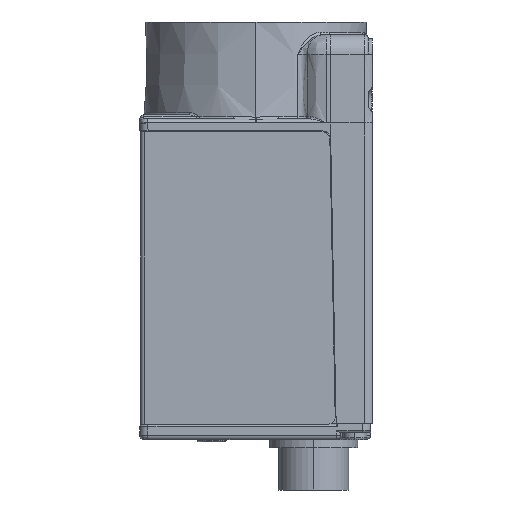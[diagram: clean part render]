
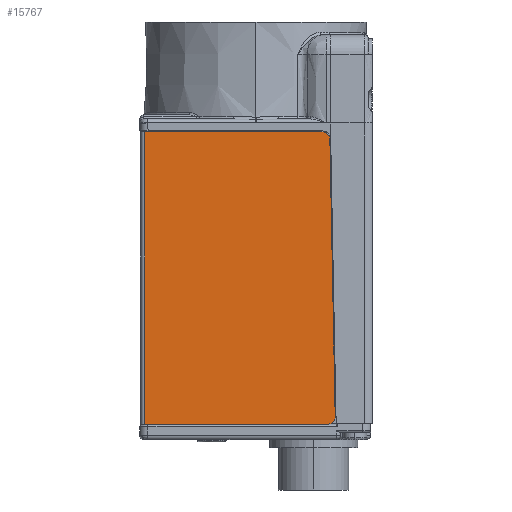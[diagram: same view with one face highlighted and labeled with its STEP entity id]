
A CAD part, left-side view. The second image highlights one B-rep face of the part: STEP entity #15767.
In plain terms, the highlighted planar face has unit normal (-1, 0, 0).
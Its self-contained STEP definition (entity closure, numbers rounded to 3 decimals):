
#934 = CARTESIAN_POINT ( 'NONE',  ( -14.5, 13.9, -38.1 ) ) ;
#1612 = VECTOR ( 'NONE', #14043, 1000. ) ;
#1662 = CIRCLE ( 'NONE', #34683, 1. ) ;
#3395 = CARTESIAN_POINT ( 'NONE',  ( -14.5, 13.9, -1.6 ) ) ;
#5050 = CARTESIAN_POINT ( 'NONE',  ( -14.5, -9.88, -37.081 ) ) ;
#6193 = CARTESIAN_POINT ( 'NONE',  ( -14.5, 13.9, -1.6 ) ) ;
#6621 = CIRCLE ( 'NONE', #22348, 1. ) ;
#7168 = EDGE_LOOP ( 'NONE', ( #32422, #27443, #35061, #32616, #10975, #21681, #10550 ) ) ;
#7507 = CARTESIAN_POINT ( 'NONE',  ( -14.5, -8.219, -2.6 ) ) ;
#7635 = LINE ( 'NONE', #12036, #11411 ) ;
#8854 = CARTESIAN_POINT ( 'NONE',  ( -14.5, 13.9, -38.1 ) ) ;
#10550 = ORIENTED_EDGE ( 'NONE', *, *, #12299, .T. ) ;
#10975 = ORIENTED_EDGE ( 'NONE', *, *, #30338, .T. ) ;
#11411 = VECTOR ( 'NONE', #30892, 1000. ) ;
#11432 = FACE_OUTER_BOUND ( 'NONE', #7168, .T. ) ;
#11823 = VECTOR ( 'NONE', #27231, 1000. ) ;
#12036 = CARTESIAN_POINT ( 'NONE',  ( -14.5, 13.9, -38.1 ) ) ;
#12299 = EDGE_CURVE ( 'NONE', #26762, #33675, #17338, .T. ) ;
#12577 = VECTOR ( 'NONE', #30563, 1000. ) ;
#13076 = CARTESIAN_POINT ( 'NONE',  ( -14.5, -8.881, -37.1 ) ) ;
#13427 = LINE ( 'NONE', #22798, #12577 ) ;
#13521 = CARTESIAN_POINT ( 'NONE',  ( -14.5, 13.9, -38.1 ) ) ;
#14043 = DIRECTION ( 'NONE',  ( 0., 1., 0. ) ) ;
#14289 = LINE ( 'NONE', #3395, #1612 ) ;
#14557 = DIRECTION ( 'NONE',  ( 0., 0., 1. ) ) ;
#14860 = CARTESIAN_POINT ( 'NONE',  ( -14.5, -8.881, -38.1 ) ) ;
#15663 = DIRECTION ( 'NONE',  ( -1., 0., 0. ) ) ;
#15767 = ADVANCED_FACE ( 'NONE', ( #11432 ), #16916, .T. ) ;
#16916 = PLANE ( 'NONE',  #23524 ) ;
#17338 = LINE ( 'NONE', #13521, #11823 ) ;
#17760 = EDGE_CURVE ( 'NONE', #18824, #26762, #14289, .T. ) ;
#18824 = VERTEX_POINT ( 'NONE', #32812 ) ;
#19693 = DIRECTION ( 'NONE',  ( -1., 0., 0. ) ) ;
#20849 = DIRECTION ( 'NONE',  ( -1., 0., 0. ) ) ;
#21043 = VERTEX_POINT ( 'NONE', #5050 ) ;
#21681 = ORIENTED_EDGE ( 'NONE', *, *, #17760, .T. ) ;
#22046 = CIRCLE ( 'NONE', #23287, 1. ) ;
#22348 = AXIS2_PLACEMENT_3D ( 'NONE', #33147, #19693, #14557 ) ;
#22798 = CARTESIAN_POINT ( 'NONE',  ( -14.5, -9.2, -1.6 ) ) ;
#23287 = AXIS2_PLACEMENT_3D ( 'NONE', #13076, #20849, #29549 ) ;
#23524 = AXIS2_PLACEMENT_3D ( 'NONE', #8854, #30667, #33264 ) ;
#23582 = CARTESIAN_POINT ( 'NONE',  ( -14.5, -9.881, -37.1 ) ) ;
#23996 = EDGE_CURVE ( 'NONE', #24671, #33675, #7635, .T. ) ;
#24671 = VERTEX_POINT ( 'NONE', #14860 ) ;
#25148 = CARTESIAN_POINT ( 'NONE',  ( -14.5, -9.219, -2.581 ) ) ;
#26762 = VERTEX_POINT ( 'NONE', #6193 ) ;
#27231 = DIRECTION ( 'NONE',  ( 0., 0., -1. ) ) ;
#27398 = EDGE_CURVE ( 'NONE', #24671, #32145, #6621, .T. ) ;
#27443 = ORIENTED_EDGE ( 'NONE', *, *, #27398, .T. ) ;
#29549 = DIRECTION ( 'NONE',  ( 0., 0., 1. ) ) ;
#29813 = EDGE_CURVE ( 'NONE', #32145, #21043, #22046, .T. ) ;
#30338 = EDGE_CURVE ( 'NONE', #30745, #18824, #1662, .T. ) ;
#30563 = DIRECTION ( 'NONE',  ( 0., 0.019, 1. ) ) ;
#30667 = DIRECTION ( 'NONE',  ( -1., 0., 0. ) ) ;
#30745 = VERTEX_POINT ( 'NONE', #25148 ) ;
#30892 = DIRECTION ( 'NONE',  ( 0., 1., 0. ) ) ;
#31525 = EDGE_CURVE ( 'NONE', #21043, #30745, #13427, .T. ) ;
#32145 = VERTEX_POINT ( 'NONE', #23582 ) ;
#32422 = ORIENTED_EDGE ( 'NONE', *, *, #23996, .F. ) ;
#32616 = ORIENTED_EDGE ( 'NONE', *, *, #31525, .T. ) ;
#32812 = CARTESIAN_POINT ( 'NONE',  ( -14.5, -8.219, -1.6 ) ) ;
#33147 = CARTESIAN_POINT ( 'NONE',  ( -14.5, -8.881, -37.1 ) ) ;
#33264 = DIRECTION ( 'NONE',  ( 0., 0., 1. ) ) ;
#33675 = VERTEX_POINT ( 'NONE', #934 ) ;
#34683 = AXIS2_PLACEMENT_3D ( 'NONE', #7507, #15663, #34722 ) ;
#34722 = DIRECTION ( 'NONE',  ( 0., 0., 1. ) ) ;
#35061 = ORIENTED_EDGE ( 'NONE', *, *, #29813, .T. ) ;
